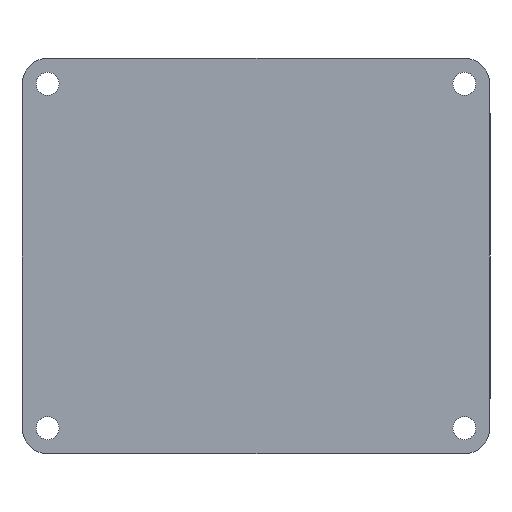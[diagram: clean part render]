
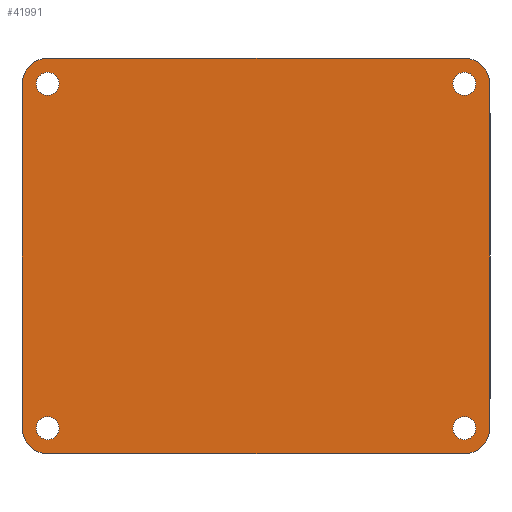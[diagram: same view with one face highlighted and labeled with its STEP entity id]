
A CAD part, front view. The second image highlights one B-rep face of the part: STEP entity #41991.
In plain terms, the highlighted planar face has unit normal (0, -1, 0).
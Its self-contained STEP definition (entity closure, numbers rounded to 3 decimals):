
#87 = CARTESIAN_POINT ( 'NONE',  ( -24.5, 0., -20.25 ) ) ;
#242 = DIRECTION ( 'NONE',  ( 0., 0., 1. ) ) ;
#305 = VERTEX_POINT ( 'NONE', #5836 ) ;
#540 = CARTESIAN_POINT ( 'NONE',  ( -24.5, 0., -20.25 ) ) ;
#890 = CIRCLE ( 'NONE', #32730, 1.35 ) ;
#1000 = VERTEX_POINT ( 'NONE', #16171 ) ;
#1559 = VERTEX_POINT ( 'NONE', #27495 ) ;
#1751 = FACE_OUTER_BOUND ( 'NONE', #12433, .T. ) ;
#1792 = ORIENTED_EDGE ( 'NONE', *, *, #5694, .T. ) ;
#1813 = AXIS2_PLACEMENT_3D ( 'NONE', #30842, #7605, #34727 ) ;
#1971 = CIRCLE ( 'NONE', #34230, 3. ) ;
#2192 = LINE ( 'NONE', #8502, #21597 ) ;
#2918 = CIRCLE ( 'NONE', #4238, 1.35 ) ;
#3279 = ORIENTED_EDGE ( 'NONE', *, *, #6153, .F. ) ;
#3988 = DIRECTION ( 'NONE',  ( 0., 0., -1. ) ) ;
#4219 = CIRCLE ( 'NONE', #39949, 1.35 ) ;
#4238 = AXIS2_PLACEMENT_3D ( 'NONE', #20780, #47932, #24656 ) ;
#4439 = DIRECTION ( 'NONE',  ( 0., 0., 1. ) ) ;
#4459 = AXIS2_PLACEMENT_3D ( 'NONE', #46737, #23472, #242 ) ;
#4896 = VERTEX_POINT ( 'NONE', #33003 ) ;
#5250 = ORIENTED_EDGE ( 'NONE', *, *, #46210, .T. ) ;
#5694 = EDGE_CURVE ( 'NONE', #22069, #1559, #14868, .T. ) ;
#5759 = DIRECTION ( 'NONE',  ( 0., -1., 0. ) ) ;
#5836 = CARTESIAN_POINT ( 'NONE',  ( 27.5, 0., -20.25 ) ) ;
#5994 = LINE ( 'NONE', #6675, #46070 ) ;
#6153 = EDGE_CURVE ( 'NONE', #26284, #28338, #890, .T. ) ;
#6483 = EDGE_CURVE ( 'NONE', #16418, #28144, #6925, .T. ) ;
#6675 = CARTESIAN_POINT ( 'NONE',  ( 27.5, 0., 0. ) ) ;
#6925 = CIRCLE ( 'NONE', #42180, 1.35 ) ;
#7152 = DIRECTION ( 'NONE',  ( 0., -1., 0. ) ) ;
#7605 = DIRECTION ( 'NONE',  ( 0., -1., 0. ) ) ;
#7822 = ORIENTED_EDGE ( 'NONE', *, *, #23053, .T. ) ;
#8502 = CARTESIAN_POINT ( 'NONE',  ( 0., 0., 23.25 ) ) ;
#8557 = CIRCLE ( 'NONE', #34423, 1.35 ) ;
#8968 = EDGE_CURVE ( 'NONE', #28338, #26284, #8557, .T. ) ;
#10203 = ORIENTED_EDGE ( 'NONE', *, *, #47558, .T. ) ;
#10348 = EDGE_LOOP ( 'NONE', ( #43482, #24203 ) ) ;
#10802 = VERTEX_POINT ( 'NONE', #28586 ) ;
#10975 = DIRECTION ( 'NONE',  ( 0., 1., 0. ) ) ;
#11323 = EDGE_CURVE ( 'NONE', #28144, #16418, #16605, .T. ) ;
#12049 = FACE_BOUND ( 'NONE', #35353, .T. ) ;
#12433 = EDGE_LOOP ( 'NONE', ( #7822, #44630, #49199, #5250, #1792, #32939, #10203, #38581 ) ) ;
#13252 = FACE_BOUND ( 'NONE', #41390, .T. ) ;
#13529 = AXIS2_PLACEMENT_3D ( 'NONE', #45666, #22421, #49619 ) ;
#13696 = CIRCLE ( 'NONE', #22679, 1.35 ) ;
#13968 = VERTEX_POINT ( 'NONE', #49195 ) ;
#14484 = CARTESIAN_POINT ( 'NONE',  ( 24.5, 0., 20.25 ) ) ;
#14868 = CIRCLE ( 'NONE', #33959, 3. ) ;
#15548 = VERTEX_POINT ( 'NONE', #18963 ) ;
#15765 = DIRECTION ( 'NONE',  ( 0., -1., 0. ) ) ;
#16171 = CARTESIAN_POINT ( 'NONE',  ( 24.5, 0., 18.9 ) ) ;
#16261 = EDGE_CURVE ( 'NONE', #10802, #46521, #42849, .T. ) ;
#16418 = VERTEX_POINT ( 'NONE', #32142 ) ;
#16605 = CIRCLE ( 'NONE', #17925, 1.35 ) ;
#16998 = DIRECTION ( 'NONE',  ( 0., -1., 0. ) ) ;
#17504 = CARTESIAN_POINT ( 'NONE',  ( 24.5, 0., -21.6 ) ) ;
#17714 = EDGE_CURVE ( 'NONE', #21831, #15548, #21935, .T. ) ;
#17925 = AXIS2_PLACEMENT_3D ( 'NONE', #540, #27696, #4439 ) ;
#18394 = DIRECTION ( 'NONE',  ( 0., 0., 1. ) ) ;
#18421 = VECTOR ( 'NONE', #50186, 1000. ) ;
#18963 = CARTESIAN_POINT ( 'NONE',  ( -27.5, 0., -20.25 ) ) ;
#19494 = DIRECTION ( 'NONE',  ( 0., -1., 0. ) ) ;
#19584 = ORIENTED_EDGE ( 'NONE', *, *, #8968, .F. ) ;
#19590 = EDGE_CURVE ( 'NONE', #46521, #10802, #2918, .T. ) ;
#20022 = CARTESIAN_POINT ( 'NONE',  ( 27.5, 0., 20.25 ) ) ;
#20780 = CARTESIAN_POINT ( 'NONE',  ( -24.5, 0., 20.25 ) ) ;
#21597 = VECTOR ( 'NONE', #43452, 1000. ) ;
#21831 = VERTEX_POINT ( 'NONE', #48230 ) ;
#21935 = LINE ( 'NONE', #37086, #31045 ) ;
#22069 = VERTEX_POINT ( 'NONE', #20022 ) ;
#22421 = DIRECTION ( 'NONE',  ( 0., -1., 0. ) ) ;
#22679 = AXIS2_PLACEMENT_3D ( 'NONE', #14484, #41666, #18394 ) ;
#23053 = EDGE_CURVE ( 'NONE', #15548, #4896, #1971, .T. ) ;
#23472 = DIRECTION ( 'NONE',  ( 0., -1., 0. ) ) ;
#24203 = ORIENTED_EDGE ( 'NONE', *, *, #11323, .F. ) ;
#24294 = CARTESIAN_POINT ( 'NONE',  ( -24.5, 0., 23.25 ) ) ;
#24656 = DIRECTION ( 'NONE',  ( 0., 0., 1. ) ) ;
#25987 = DIRECTION ( 'NONE',  ( 0., 0., 1. ) ) ;
#26284 = VERTEX_POINT ( 'NONE', #34639 ) ;
#26399 = VERTEX_POINT ( 'NONE', #24294 ) ;
#26400 = PLANE ( 'NONE',  #35381 ) ;
#26867 = CARTESIAN_POINT ( 'NONE',  ( 0., 0., -23.25 ) ) ;
#26951 = EDGE_CURVE ( 'NONE', #1559, #26399, #2192, .T. ) ;
#27221 = DIRECTION ( 'NONE',  ( 0., -1., 0. ) ) ;
#27495 = CARTESIAN_POINT ( 'NONE',  ( 24.5, 0., 23.25 ) ) ;
#27531 = LINE ( 'NONE', #26867, #18421 ) ;
#27696 = DIRECTION ( 'NONE',  ( 0., -1., 0. ) ) ;
#28047 = EDGE_CURVE ( 'NONE', #4896, #13968, #27531, .T. ) ;
#28144 = VERTEX_POINT ( 'NONE', #31314 ) ;
#28338 = VERTEX_POINT ( 'NONE', #17504 ) ;
#28586 = CARTESIAN_POINT ( 'NONE',  ( -24.5, 0., 18.9 ) ) ;
#28986 = CARTESIAN_POINT ( 'NONE',  ( 24.5, 0., -20.25 ) ) ;
#30366 = CARTESIAN_POINT ( 'NONE',  ( 24.5, 0., 20.25 ) ) ;
#30842 = CARTESIAN_POINT ( 'NONE',  ( 24.5, 0., -20.25 ) ) ;
#31045 = VECTOR ( 'NONE', #44900, 1000. ) ;
#31314 = CARTESIAN_POINT ( 'NONE',  ( -24.5, 0., -21.6 ) ) ;
#32142 = CARTESIAN_POINT ( 'NONE',  ( -24.5, 0., -18.9 ) ) ;
#32698 = FACE_BOUND ( 'NONE', #35213, .T. ) ;
#32730 = AXIS2_PLACEMENT_3D ( 'NONE', #40262, #16998, #44169 ) ;
#32902 = DIRECTION ( 'NONE',  ( 0., 0., 1. ) ) ;
#32939 = ORIENTED_EDGE ( 'NONE', *, *, #26951, .T. ) ;
#33003 = CARTESIAN_POINT ( 'NONE',  ( -24.5, 0., -23.25 ) ) ;
#33959 = AXIS2_PLACEMENT_3D ( 'NONE', #30366, #7152, #34274 ) ;
#34198 = CARTESIAN_POINT ( 'NONE',  ( -27.5, 0., -23.25 ) ) ;
#34230 = AXIS2_PLACEMENT_3D ( 'NONE', #87, #27221, #3988 ) ;
#34274 = DIRECTION ( 'NONE',  ( 0., 0., -1. ) ) ;
#34423 = AXIS2_PLACEMENT_3D ( 'NONE', #28986, #5759, #32902 ) ;
#34639 = CARTESIAN_POINT ( 'NONE',  ( 24.5, 0., -18.9 ) ) ;
#34712 = CARTESIAN_POINT ( 'NONE',  ( -24.5, 0., 21.6 ) ) ;
#34727 = DIRECTION ( 'NONE',  ( 0., 0., -1. ) ) ;
#35213 = EDGE_LOOP ( 'NONE', ( #38795, #48652 ) ) ;
#35353 = EDGE_LOOP ( 'NONE', ( #37683, #47954 ) ) ;
#35381 = AXIS2_PLACEMENT_3D ( 'NONE', #34198, #10975, #38121 ) ;
#35403 = VERTEX_POINT ( 'NONE', #39037 ) ;
#36820 = CIRCLE ( 'NONE', #13529, 3. ) ;
#37086 = CARTESIAN_POINT ( 'NONE',  ( -27.5, 0., 0. ) ) ;
#37683 = ORIENTED_EDGE ( 'NONE', *, *, #19590, .F. ) ;
#38121 = DIRECTION ( 'NONE',  ( 0., 0., 1. ) ) ;
#38581 = ORIENTED_EDGE ( 'NONE', *, *, #17714, .T. ) ;
#38643 = EDGE_CURVE ( 'NONE', #13968, #305, #44797, .T. ) ;
#38795 = ORIENTED_EDGE ( 'NONE', *, *, #41519, .F. ) ;
#39037 = CARTESIAN_POINT ( 'NONE',  ( 24.5, 0., 21.6 ) ) ;
#39060 = CARTESIAN_POINT ( 'NONE',  ( -24.5, 0., -20.25 ) ) ;
#39949 = AXIS2_PLACEMENT_3D ( 'NONE', #42745, #19494, #46654 ) ;
#40262 = CARTESIAN_POINT ( 'NONE',  ( 24.5, 0., -20.25 ) ) ;
#41390 = EDGE_LOOP ( 'NONE', ( #3279, #19584 ) ) ;
#41519 = EDGE_CURVE ( 'NONE', #35403, #1000, #4219, .T. ) ;
#41666 = DIRECTION ( 'NONE',  ( 0., -1., 0. ) ) ;
#41991 = ADVANCED_FACE ( 'NONE', ( #13252, #43031, #12049, #32698, #1751 ), #26400, .F. ) ;
#42180 = AXIS2_PLACEMENT_3D ( 'NONE', #39060, #15765, #42953 ) ;
#42745 = CARTESIAN_POINT ( 'NONE',  ( 24.5, 0., 20.25 ) ) ;
#42849 = CIRCLE ( 'NONE', #4459, 1.35 ) ;
#42953 = DIRECTION ( 'NONE',  ( 0., 0., 1. ) ) ;
#43031 = FACE_BOUND ( 'NONE', #10348, .T. ) ;
#43452 = DIRECTION ( 'NONE',  ( -1., 0., 0. ) ) ;
#43482 = ORIENTED_EDGE ( 'NONE', *, *, #6483, .F. ) ;
#44169 = DIRECTION ( 'NONE',  ( 0., 0., 1. ) ) ;
#44630 = ORIENTED_EDGE ( 'NONE', *, *, #28047, .T. ) ;
#44797 = CIRCLE ( 'NONE', #1813, 3. ) ;
#44900 = DIRECTION ( 'NONE',  ( 0., 0., -1. ) ) ;
#45666 = CARTESIAN_POINT ( 'NONE',  ( -24.5, 0., 20.25 ) ) ;
#46070 = VECTOR ( 'NONE', #25987, 1000. ) ;
#46210 = EDGE_CURVE ( 'NONE', #305, #22069, #5994, .T. ) ;
#46521 = VERTEX_POINT ( 'NONE', #34712 ) ;
#46654 = DIRECTION ( 'NONE',  ( 0., 0., 1. ) ) ;
#46737 = CARTESIAN_POINT ( 'NONE',  ( -24.5, 0., 20.25 ) ) ;
#47558 = EDGE_CURVE ( 'NONE', #26399, #21831, #36820, .T. ) ;
#47932 = DIRECTION ( 'NONE',  ( 0., -1., 0. ) ) ;
#47954 = ORIENTED_EDGE ( 'NONE', *, *, #16261, .F. ) ;
#48230 = CARTESIAN_POINT ( 'NONE',  ( -27.5, 0., 20.25 ) ) ;
#48652 = ORIENTED_EDGE ( 'NONE', *, *, #48740, .F. ) ;
#48740 = EDGE_CURVE ( 'NONE', #1000, #35403, #13696, .T. ) ;
#49195 = CARTESIAN_POINT ( 'NONE',  ( 24.5, 0., -23.25 ) ) ;
#49199 = ORIENTED_EDGE ( 'NONE', *, *, #38643, .T. ) ;
#49619 = DIRECTION ( 'NONE',  ( 0., 0., -1. ) ) ;
#50186 = DIRECTION ( 'NONE',  ( 1., 0., 0. ) ) ;
